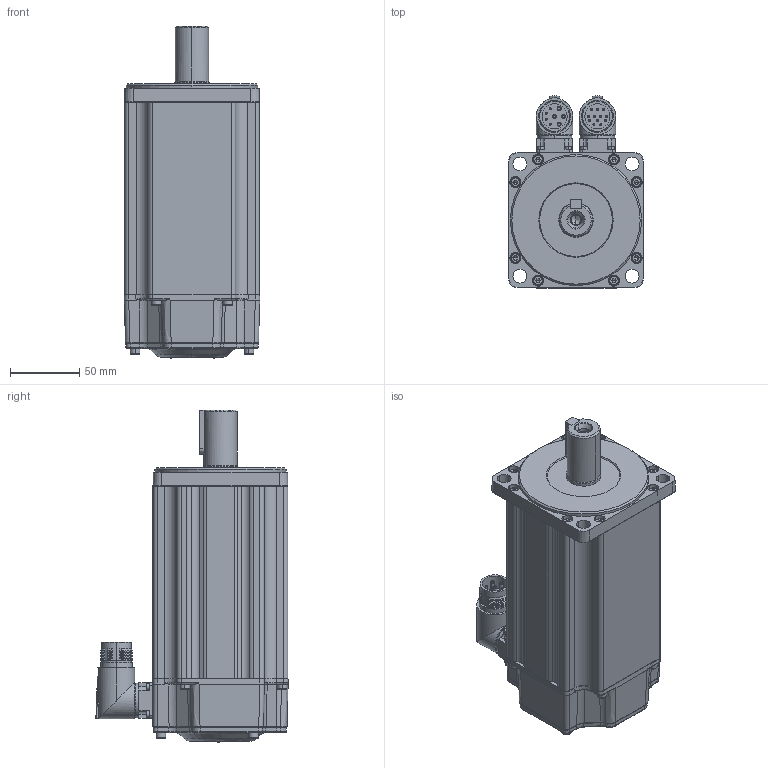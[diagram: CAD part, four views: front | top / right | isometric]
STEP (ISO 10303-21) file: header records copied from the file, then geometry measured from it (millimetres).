
FILE_DESCRIPTION (( 'STEP AP203' ), '1' );
FILE_NAME ('MC20-100-3L30-N152-1¡õPK-NNNN.STEP', '2025-05-04T13:27:05', ( '' ), ( '' ), 'SwSTEP 2.0', 'SolidWorks 2014', '' );
FILE_SCHEMA (( 'CONFIG_CONTROL_DESIGN' ));
Products named in the file (1): MC20-100-3L30-N152-1¡õPK-NNNN
Bounding box: 98.04 x 139.27 x 240.49 mm (x, y, z)
Volume: 1800895.2 mm3; surface area: 207714.4 mm2
Topology: 32 solids, 32 shells, 2072 faces, 4810 edges, 2855 vertices
Faces by surface type: plane 768, cylinder 544, cone 362, bspline 211, torus 182, sphere 5
Entity records: 64693 total; most frequent: CARTESIAN_POINT 18778, DIRECTION 9678, ORIENTED_EDGE 9432, EDGE_CURVE 4716, AXIS2_PLACEMENT_3D 3775, VERTEX_POINT 2855, EDGE_LOOP 2291, LINE 2128
